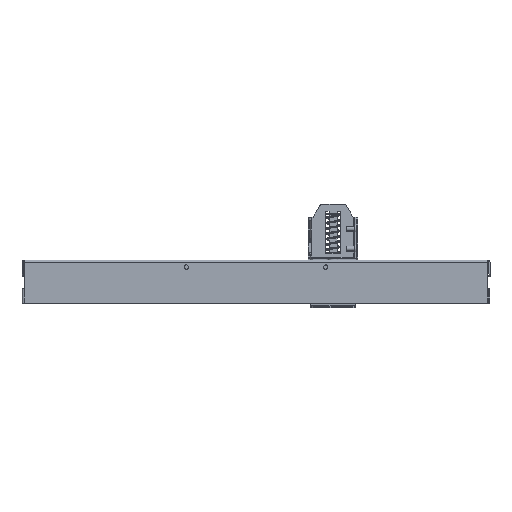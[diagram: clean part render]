
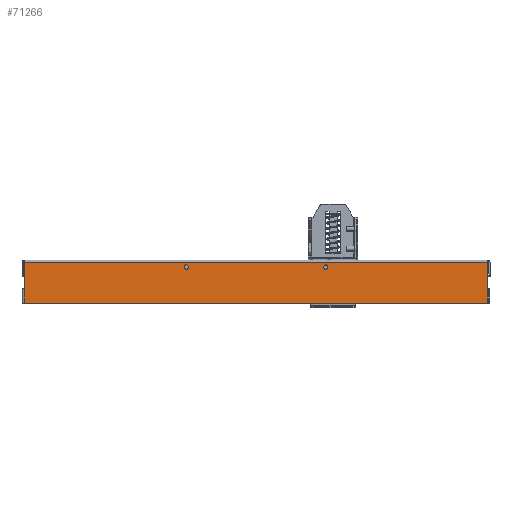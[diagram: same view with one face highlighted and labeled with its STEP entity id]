
A CAD part, front view. The second image highlights one B-rep face of the part: STEP entity #71266.
In plain terms, the highlighted planar face has unit normal (0, -1, 0).
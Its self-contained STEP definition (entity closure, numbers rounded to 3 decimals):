
#67896=CARTESIAN_POINT(' ',(-232.793,-132.5,-2.1));
#67897=VERTEX_POINT(' ',#67896);
#67911=CARTESIAN_POINT(' ',(232.793,-132.5,-2.1));
#67916=DIRECTION(' ',(-1.,0.,0.));
#67921=VECTOR(' ',#67916,1.);
#67926=LINE('',#67911,#67921);
#67931=CARTESIAN_POINT(' ',(232.793,-132.5,-2.1));
#67932=VERTEX_POINT(' ',#67931);
#67936=EDGE_CURVE(' ',#67932,#67897,#67926,.T.);
#70876=DIRECTION(' ',(0.,-1.,0.));
#70881=CARTESIAN_POINT(' ',(-232.793,-132.5,-2.1));
#70886=DIRECTION(' ',(0.,0.,-1.));
#70891=AXIS2_PLACEMENT_3D(' ',#70881,#70876,#70886);
#70896=PLANE('NONE',#70891);
#70901=CARTESIAN_POINT(' ',(-232.793,-132.5,-43.5));
#70906=DIRECTION(' ',(0.,0.,1.));
#70911=VECTOR(' ',#70906,1.);
#70916=LINE('',#70901,#70911);
#70921=CARTESIAN_POINT(' ',(-232.793,-132.5,-43.5));
#70922=VERTEX_POINT(' ',#70921);
#70926=CARTESIAN_POINT(' ',(-232.793,-132.5,-28.5));
#70927=VERTEX_POINT(' ',#70926);
#70931=EDGE_CURVE(' ',#70922,#70927,#70916,.T.);
#70936=ORIENTED_EDGE(' ',*,*,#70931,.F.);
#70941=CARTESIAN_POINT(' ',(232.793,-132.5,-43.5));
#70946=DIRECTION(' ',(-1.,0.,0.));
#70951=VECTOR(' ',#70946,1.);
#70956=LINE('',#70941,#70951);
#70961=CARTESIAN_POINT(' ',(232.793,-132.5,-43.5));
#70962=VERTEX_POINT(' ',#70961);
#70966=EDGE_CURVE(' ',#70962,#70922,#70956,.T.);
#70971=ORIENTED_EDGE(' ',*,*,#70966,.F.);
#70976=CARTESIAN_POINT(' ',(232.793,-132.5,-43.5));
#70981=DIRECTION(' ',(0.,0.,1.));
#70986=VECTOR(' ',#70981,1.);
#70991=LINE('',#70976,#70986);
#70996=CARTESIAN_POINT(' ',(232.793,-132.5,-28.5));
#70997=VERTEX_POINT(' ',#70996);
#71001=EDGE_CURVE(' ',#70962,#70997,#70991,.T.);
#71006=ORIENTED_EDGE(' ',*,*,#71001,.T.);
#71011=CARTESIAN_POINT(' ',(232.793,-132.5,-28.5));
#71016=DIRECTION(' ',(0.,0.,1.));
#71021=VECTOR(' ',#71016,1.);
#71026=LINE('',#71011,#71021);
#71031=EDGE_CURVE(' ',#70997,#67932,#71026,.T.);
#71036=ORIENTED_EDGE(' ',*,*,#71031,.T.);
#71041=ORIENTED_EDGE(' ',*,*,#67936,.T.);
#71046=CARTESIAN_POINT(' ',(-232.793,-132.5,-28.5));
#71051=DIRECTION(' ',(0.,0.,1.));
#71056=VECTOR(' ',#71051,1.);
#71061=LINE('',#71046,#71056);
#71066=EDGE_CURVE(' ',#70927,#67897,#71061,.T.);
#71071=ORIENTED_EDGE(' ',*,*,#71066,.F.);
#71076=EDGE_LOOP(' ',(#70936,#70971,#71006,#71036,#71041,#71071));
#71081=FACE_OUTER_BOUND(' ',#71076,.T.);
#71086=CARTESIAN_POINT(' ',(70.,-132.5,-7.));
#71091=DIRECTION(' ',(-0.,-1.,0.));
#71096=DIRECTION(' ',(0.,0.,-1.));
#71101=AXIS2_PLACEMENT_3D(' ',#71086,#71091,#71096);
#71106=CIRCLE('',#71101,2.1);
#71111=CARTESIAN_POINT(' ',(70.,-132.5,-9.1));
#71112=VERTEX_POINT(' ',#71111);
#71116=CARTESIAN_POINT(' ',(70.,-132.5,-4.9));
#71117=VERTEX_POINT(' ',#71116);
#71121=EDGE_CURVE(' ',#71112,#71117,#71106,.T.);
#71126=ORIENTED_EDGE(' ',*,*,#71121,.F.);
#71131=CARTESIAN_POINT(' ',(70.,-132.5,-7.));
#71136=DIRECTION(' ',(0.,-1.,0.));
#71141=DIRECTION(' ',(0.,0.,1.));
#71146=AXIS2_PLACEMENT_3D(' ',#71131,#71136,#71141);
#71151=CIRCLE('',#71146,2.1);
#71156=EDGE_CURVE(' ',#71117,#71112,#71151,.T.);
#71161=ORIENTED_EDGE(' ',*,*,#71156,.F.);
#71166=EDGE_LOOP(' ',(#71126,#71161));
#71171=FACE_BOUND(' ',#71166,.T.);
#71176=CARTESIAN_POINT(' ',(-70.,-132.5,-7.));
#71181=DIRECTION(' ',(-0.,-1.,0.));
#71186=DIRECTION(' ',(0.,0.,-1.));
#71191=AXIS2_PLACEMENT_3D(' ',#71176,#71181,#71186);
#71196=CIRCLE('',#71191,2.1);
#71201=CARTESIAN_POINT(' ',(-70.,-132.5,-9.1));
#71202=VERTEX_POINT(' ',#71201);
#71206=CARTESIAN_POINT(' ',(-70.,-132.5,-4.9));
#71207=VERTEX_POINT(' ',#71206);
#71211=EDGE_CURVE(' ',#71202,#71207,#71196,.T.);
#71216=ORIENTED_EDGE(' ',*,*,#71211,.F.);
#71221=CARTESIAN_POINT(' ',(-70.,-132.5,-7.));
#71226=DIRECTION(' ',(0.,-1.,0.));
#71231=DIRECTION(' ',(0.,0.,1.));
#71236=AXIS2_PLACEMENT_3D(' ',#71221,#71226,#71231);
#71241=CIRCLE('',#71236,2.1);
#71246=EDGE_CURVE(' ',#71207,#71202,#71241,.T.);
#71251=ORIENTED_EDGE(' ',*,*,#71246,.F.);
#71256=EDGE_LOOP(' ',(#71216,#71251));
#71261=FACE_BOUND(' ',#71256,.T.);
#71266=ADVANCED_FACE('NONE',(#71081,#71171,#71261),#70896,.T.);
